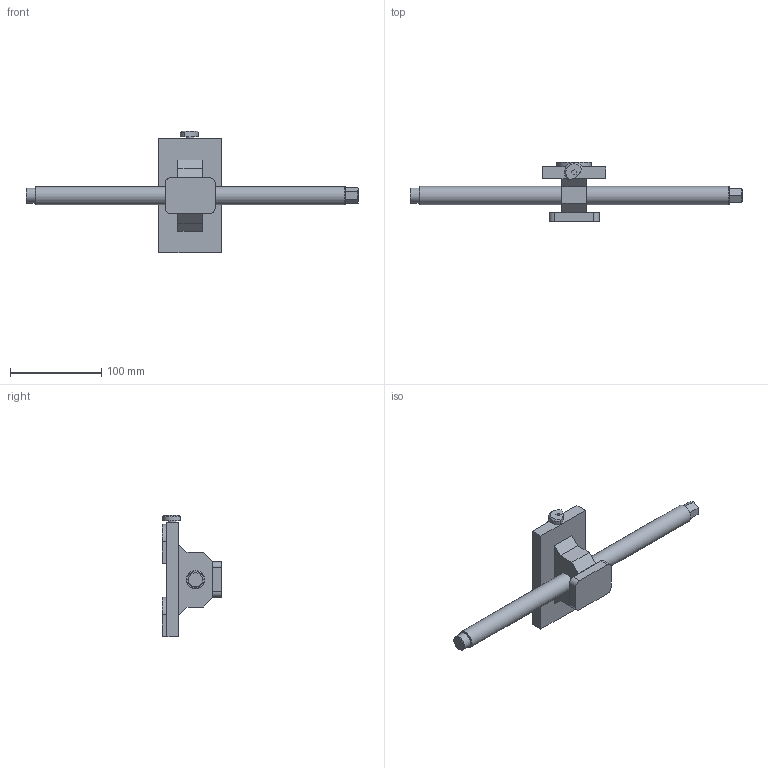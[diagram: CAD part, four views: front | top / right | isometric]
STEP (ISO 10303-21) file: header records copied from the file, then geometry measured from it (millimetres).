
FILE_DESCRIPTION (( 'STEP AP214' ), '1' );
FILE_NAME ('44355-TG125.STEP', '2020-03-27T13:25:32', ( '' ), ( '' ), 'SwSTEP 2.0', 'SolidWorks 2019', '' );
FILE_SCHEMA (( 'AUTOMOTIVE_DESIGN' ));
Length unit declared in the file: millimetre
Products named in the file (1): 44355-TG125
Bounding box: 364 x 65 x 133 mm (x, y, z)
Volume: 311906.4 mm3; surface area: 55421 mm2
Topology: 1 solids, 1 shells, 85 faces, 200 edges, 128 vertices
Faces by surface type: plane 69, cylinder 12, cone 4
Full cylindrical faces by diameter (mm): 9 x1, 16.5 x1, 20 x2
Entity records: 2775 total; most frequent: CARTESIAN_POINT 407, DIRECTION 388, ORIENTED_EDGE 380, EDGE_CURVE 190, VECTOR 160, LINE 160, VERTEX_POINT 125, AXIS2_PLACEMENT_3D 114
